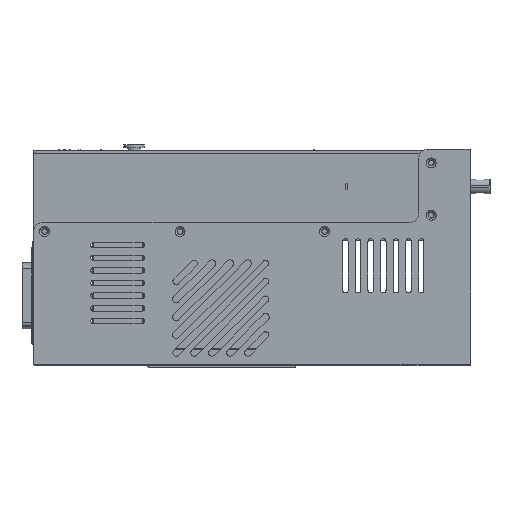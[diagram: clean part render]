
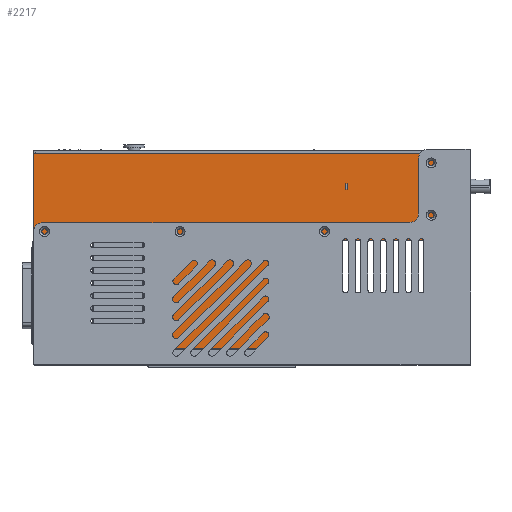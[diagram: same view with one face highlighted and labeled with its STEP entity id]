
A CAD part, top view. The second image highlights one B-rep face of the part: STEP entity #2217.
In plain terms, the highlighted planar face has unit normal (0, 0, 1).
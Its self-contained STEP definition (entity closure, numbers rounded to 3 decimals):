
#5=DIRECTION('',(0.,1.,0.));
#6=VECTOR('',#5,48.);
#7=CARTESIAN_POINT('',(107.5,0.,14.5));
#8=LINE('',#7,#6);
#260=CARTESIAN_POINT('',(-55.668,0.146,14.5));
#276=DIRECTION('',(1.,0.,0.));
#277=VECTOR('',#276,80.304);
#278=CARTESIAN_POINT('',(27.196,0.,14.501));
#279=LINE('',#278,#277);
#280=DIRECTION('',(0.,-1.,0.));
#281=VECTOR('',#280,59.699);
#282=CARTESIAN_POINT('',(27.196,0.,14.501));
#283=LINE('',#282,#281);
#284=DIRECTION('',(1.,0.,0.));
#285=VECTOR('',#284,52.3);
#286=CARTESIAN_POINT('',(-41.5,-59.7,14.5));
#287=LINE('',#286,#285);
#288=DIRECTION('',(0.,1.,0.));
#289=VECTOR('',#288,57.102);
#290=CARTESIAN_POINT('',(-54.2,-59.7,14.5));
#291=LINE('',#290,#289);
#292=CARTESIAN_POINT('',(-57.5,-2.598,14.5));
#293=DIRECTION('',(0.,0.,1.));
#294=DIRECTION('',(1.,0.,0.));
#295=AXIS2_PLACEMENT_3D('',#292,#293,#294);
#297=DIRECTION('',(1.,0.,0.));
#298=VECTOR('',#297,61.832);
#299=CARTESIAN_POINT('',(-117.5,0.146,14.5));
#300=LINE('',#299,#298);
#301=DIRECTION('',(0.,-1.,0.));
#302=VECTOR('',#301,47.854);
#303=CARTESIAN_POINT('',(-117.5,48.,14.5));
#304=LINE('',#303,#302);
#305=DIRECTION('',(-1.,0.,0.));
#306=VECTOR('',#305,225.);
#307=CARTESIAN_POINT('',(107.5,48.,14.5));
#308=LINE('',#307,#306);
#471=DIRECTION('',(1.,0.,0.));
#472=VECTOR('',#471,12.7);
#473=CARTESIAN_POINT('',(-54.2,-59.7,14.5));
#474=LINE('',#473,#472);
#508=DIRECTION('',(1.,0.,0.));
#509=VECTOR('',#508,16.397);
#510=CARTESIAN_POINT('',(10.8,-59.7,14.5));
#511=LINE('',#510,#509);
#1427=CARTESIAN_POINT('',(-54.2,-59.7,
14.5));
#1428=CARTESIAN_POINT('',(-54.2,-2.598,
14.5));
#1429=VERTEX_POINT('',#1427);
#1430=VERTEX_POINT('',#1428);
#1594=CARTESIAN_POINT('',(27.197,-59.699,14.501));
#1595=VERTEX_POINT('',#1594);
#1676=CARTESIAN_POINT('',(107.5,48.,14.5));
#1677=CARTESIAN_POINT('',(-117.5,48.,14.5));
#1678=VERTEX_POINT('',#1676);
#1679=VERTEX_POINT('',#1677);
#1680=CARTESIAN_POINT('',(-117.5,0.146,14.5));
#1681=VERTEX_POINT('',#1680);
#1692=CARTESIAN_POINT('',(107.5,0.,14.5));
#1694=VERTEX_POINT('',#1692);
#1724=VERTEX_POINT('',#260);
#1726=CARTESIAN_POINT('',(-41.5,-59.7,14.5));
#1728=VERTEX_POINT('',#1726);
#1779=CARTESIAN_POINT('',(10.8,-59.7,14.5));
#1780=VERTEX_POINT('',#1779);
#1781=CARTESIAN_POINT('',(27.196,0.,14.501));
#1783=VERTEX_POINT('',#1781);
#2191=CARTESIAN_POINT('',(-107.5,10.,14.5));
#2192=DIRECTION('',(0.,0.,-1.));
#2193=DIRECTION('',(-1.,0.,0.));
#2194=AXIS2_PLACEMENT_3D('',#2191,#2192,#2193);
#2195=PLANE('',#2194);
#2196=ORIENTED_EDGE('',*,*,#1823,.F.);
#2198=ORIENTED_EDGE('',*,*,#2197,.F.);
#2200=ORIENTED_EDGE('',*,*,#2199,.T.);
#2202=ORIENTED_EDGE('',*,*,#2201,.F.);
#2204=ORIENTED_EDGE('',*,*,#2203,.F.);
#2206=ORIENTED_EDGE('',*,*,#2205,.F.);
#2208=ORIENTED_EDGE('',*,*,#2207,.T.);
#2209=ORIENTED_EDGE('',*,*,#2181,.T.);
#2210=ORIENTED_EDGE('',*,*,#1943,.F.);
#2212=ORIENTED_EDGE('',*,*,#2211,.F.);
#2214=ORIENTED_EDGE('',*,*,#2213,.F.);
#2215=EDGE_LOOP('',(#2196,#2198,#2200,#2202,#2204,#2206,#2208,#2209,#2210,#2212,
#2214));
#2216=FACE_OUTER_BOUND('',#2215,.F.);
#296=CIRCLE('',#295,3.3);
#1823=EDGE_CURVE('',#1694,#1678,#8,.T.);
#1943=EDGE_CURVE('',#1681,#1724,#300,.T.);
#2181=EDGE_CURVE('',#1430,#1724,#296,.T.);
#2197=EDGE_CURVE('',#1783,#1694,#279,.T.);
#2199=EDGE_CURVE('',#1783,#1595,#283,.T.);
#2201=EDGE_CURVE('',#1780,#1595,#511,.T.);
#2203=EDGE_CURVE('',#1728,#1780,#287,.T.);
#2205=EDGE_CURVE('',#1429,#1728,#474,.T.);
#2207=EDGE_CURVE('',#1429,#1430,#291,.T.);
#2211=EDGE_CURVE('',#1679,#1681,#304,.T.);
#2213=EDGE_CURVE('',#1678,#1679,#308,.T.);
#2217=ADVANCED_FACE('',(#2216),#2195,.F.);
